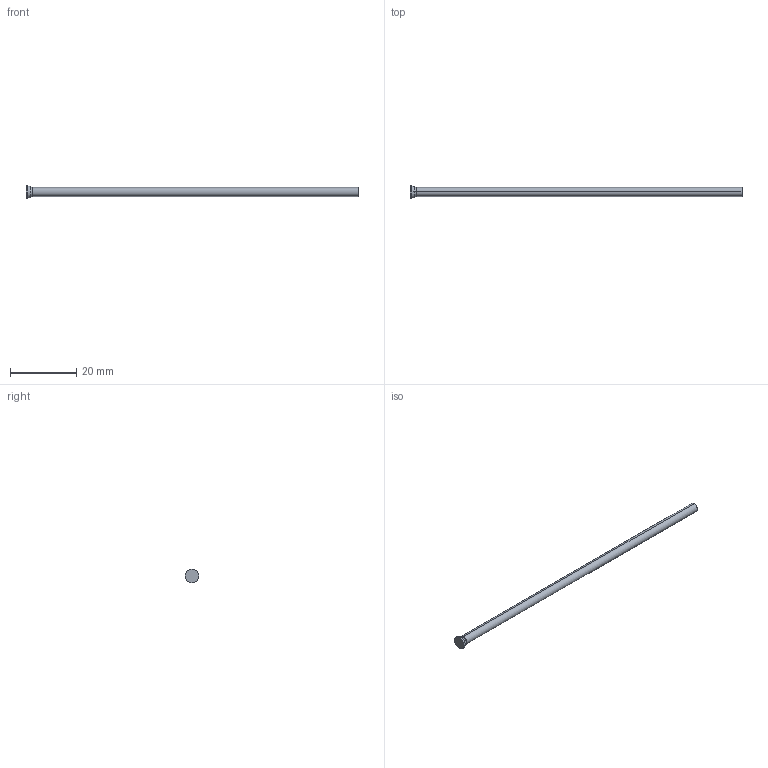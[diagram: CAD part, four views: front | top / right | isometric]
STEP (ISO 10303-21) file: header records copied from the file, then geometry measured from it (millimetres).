
FILE_DESCRIPTION (( 'STEP AP214' ), '1' );
FILE_NAME ('D-2,75x100.STEP', '2020-06-08T10:34:34', ( 'August' ), ( '' ), 'SwSTEP 2.0', 'SolidWorks 2018', '' );
FILE_SCHEMA (( 'AUTOMOTIVE_DESIGN' ));
Length unit declared in the file: millimetre
Products named in the file (1): D-2,75x100
Bounding box: 100 x 4 x 4 mm (x, y, z)
Volume: 600.7 mm3; surface area: 888.3 mm2
Topology: 1 solids, 1 shells, 10 faces, 18 edges, 10 vertices
Faces by surface type: cylinder 4, torus 2, cone 2, plane 2
Entity records: 280 total; most frequent: DIRECTION 52, CARTESIAN_POINT 39, ORIENTED_EDGE 36, AXIS2_PLACEMENT_3D 23, EDGE_CURVE 18, CIRCLE 12, VERTEX_POINT 10, ADVANCED_FACE 10
